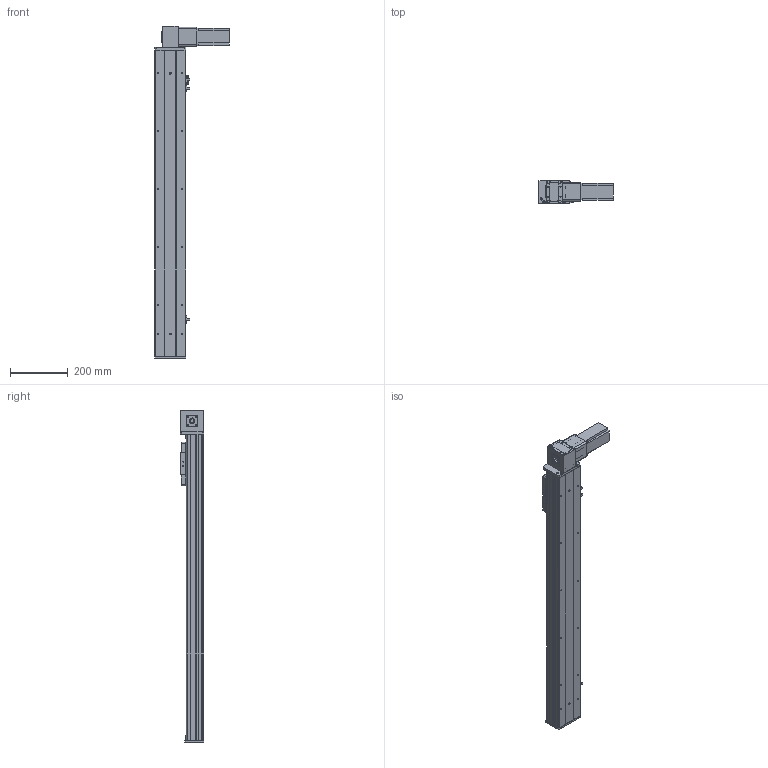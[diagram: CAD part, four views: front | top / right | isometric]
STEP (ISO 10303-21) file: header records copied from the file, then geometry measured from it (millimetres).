
FILE_DESCRIPTION (( 'STEP AP203' ), '1' );
FILE_NAME ('Y10CB-D90-S800-BD-P400W.STEP', '2020-02-17T02:30:08', ( '微软用户' ), ( '微软中国' ), 'SwSTEP 2.0', 'SolidWorks 2017', '' );
FILE_SCHEMA (( 'CONFIG_CONTROL_DESIGN' ));
Length unit declared in the file: millimetre
Products named in the file (16): 10CB-詩湍-; Y10CB-D90-S800-BD-P400W; Y10CB- 掛极耜裔啣-毀---; Y10C---詩湍揤啣; 0CB-雄赽釱---; 10CB9-掛极; 0Cb-俋欶---; 10CB-耜裔; Y10B-々湍喘謫眊楊擘啣--; Y135C-陔俋离換覜結え-; san松下电机400不带刹车----; Y100-135俋离換覜ん--; 0B-源倛裔啣; Y10B--々湍喘謫眊--666; 0B-埴倛裔啣; 0B-薊粣ん眊
Assembly tree (19 placements, depth 2):
  Y10CB-D90-S800-BD-P400W
    0CB-雄赽釱---
    0Cb-俋欶---
    Y10B-々湍喘謫眊楊擘啣--
    san松下电机400不带刹车----
    0B-源倛裔啣
    0B-埴倛裔啣
    10CB-詩湍-
    Y10CB- 掛极耜裔啣-毀---  x2
    Y10C---詩湍揤啣  x2
    10CB9-掛极
    10CB-耜裔
    Y135C-陔俋离換覜結え-
    Y100-135俋离換覜ん--  x3
    Y10B--々湍喘謫眊--666
    0B-薊粣ん眊
Bounding box: 258 x 80.5 x 1146 mm (x, y, z)
Volume: 2787216 mm3; surface area: 1191771.5 mm2
Topology: 19 solids, 19 shells, 888 faces, 2342 edges, 1532 vertices
Faces by surface type: plane 434, cylinder 430, cone 24
Entity records: 27069 total; most frequent: CARTESIAN_POINT 4756, DIRECTION 4389, ORIENTED_EDGE 4154, EDGE_CURVE 2077, AXIS2_PLACEMENT_3D 1575, VERTEX_POINT 1358, LINE 1239, VECTOR 1239
